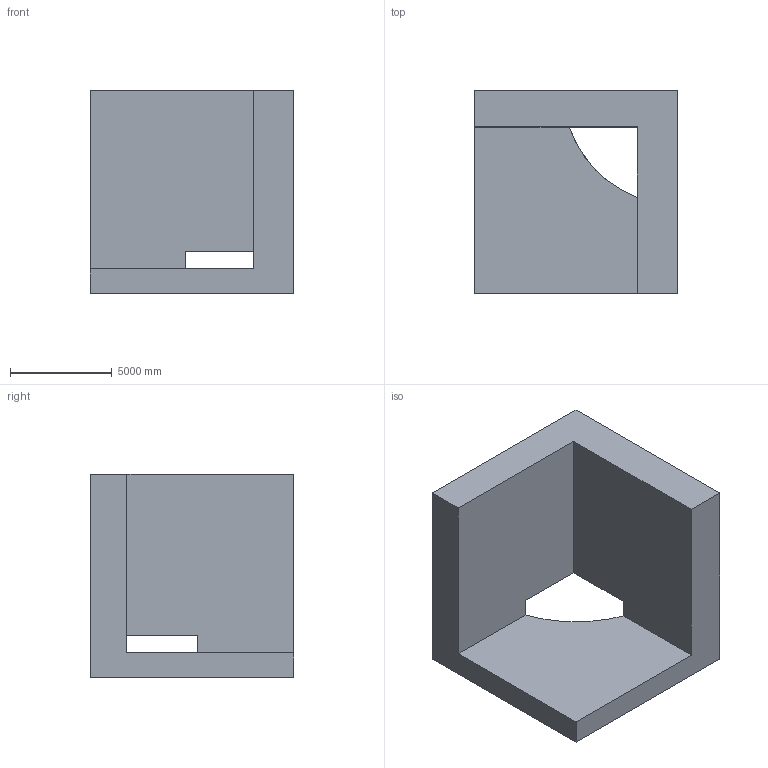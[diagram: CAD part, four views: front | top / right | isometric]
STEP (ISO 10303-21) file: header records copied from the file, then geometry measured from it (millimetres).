
FILE_DESCRIPTION (( 'STEP AP203' ), '1' );
FILE_NAME ('1056.STEP', '2022-08-18T12:35:22', ( 'user' ), ( '' ), 'SwSTEP 2.0', 'SolidWorks 2021', '' );
FILE_SCHEMA (( 'CONFIG_CONTROL_DESIGN' ));
Length unit declared in the file: centimetre
Products named in the file (1): 1056
Bounding box: 10000 x 10000 x 10000 mm (x, y, z)
Volume: 377084822780.8 mm3; surface area: 569573906.6 mm2
Topology: 1 solids, 1 shells, 11 faces, 33 edges, 22 vertices
Faces by surface type: plane 10, cylinder 1
Entity records: 452 total; most frequent: CARTESIAN_POINT 67, ORIENTED_EDGE 66, DIRECTION 61, EDGE_CURVE 33, VECTOR 29, LINE 29, VERTEX_POINT 22, AXIS2_PLACEMENT_3D 16
